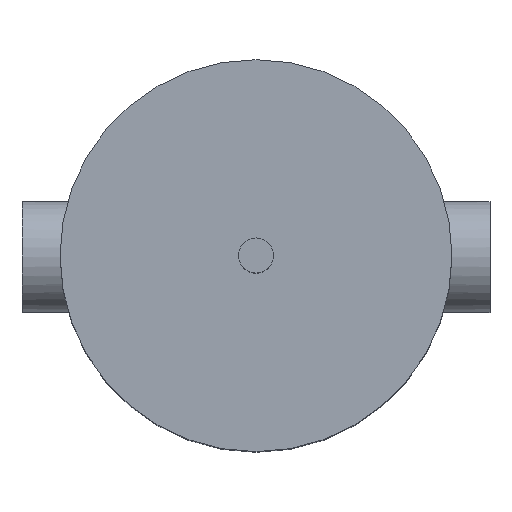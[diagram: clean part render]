
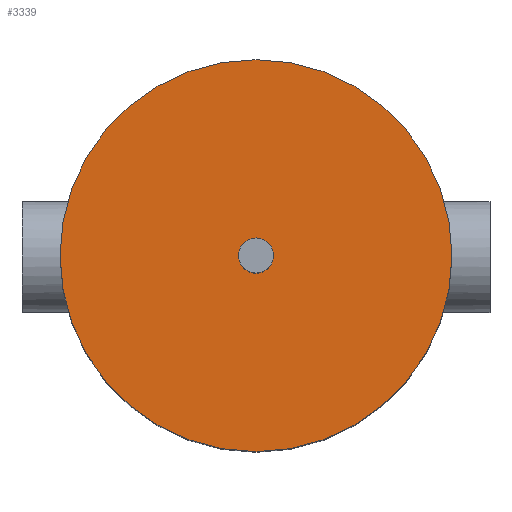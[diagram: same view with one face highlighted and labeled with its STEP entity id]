
A CAD part, top view. The second image highlights one B-rep face of the part: STEP entity #3339.
In plain terms, the highlighted planar face has unit normal (0, 0, 1).
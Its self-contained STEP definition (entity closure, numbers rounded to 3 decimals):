
#3255 = CYLINDRICAL_SURFACE('',#3256,33.5);
#3256 = AXIS2_PLACEMENT_3D('',#3257,#3258,#3259);
#3257 = CARTESIAN_POINT('',(0.,0.,82.5));
#3258 = DIRECTION('',(0.,0.,1.));
#3259 = DIRECTION('',(1.,0.,0.));
#3288 = EDGE_CURVE('',#3289,#3289,#3291,.T.);
#3289 = VERTEX_POINT('',#3290);
#3290 = CARTESIAN_POINT('',(33.5,0.,148.5));
#3291 = SURFACE_CURVE('',#3292,(#3297,#3304),.PCURVE_S1.);
#3292 = CIRCLE('',#3293,33.5);
#3293 = AXIS2_PLACEMENT_3D('',#3294,#3295,#3296);
#3294 = CARTESIAN_POINT('',(0.,0.,148.5));
#3295 = DIRECTION('',(0.,0.,1.));
#3296 = DIRECTION('',(1.,0.,0.));
#3297 = PCURVE('',#3255,#3298);
#3298 = DEFINITIONAL_REPRESENTATION('',(#3299),#3303);
#3299 = LINE('',#3300,#3301);
#3300 = CARTESIAN_POINT('',(0.,66.));
#3301 = VECTOR('',#3302,1.);
#3302 = DIRECTION('',(1.,0.));
#3303 = ( GEOMETRIC_REPRESENTATION_CONTEXT(2) 
PARAMETRIC_REPRESENTATION_CONTEXT() REPRESENTATION_CONTEXT('2D SPACE',''
  ) );
#3304 = PCURVE('',#3305,#3310);
#3305 = PLANE('',#3306);
#3306 = AXIS2_PLACEMENT_3D('',#3307,#3308,#3309);
#3307 = CARTESIAN_POINT('',(0.,0.,148.5));
#3308 = DIRECTION('',(0.,0.,1.));
#3309 = DIRECTION('',(1.,0.,0.));
#3310 = DEFINITIONAL_REPRESENTATION('',(#3311),#3315);
#3311 = CIRCLE('',#3312,33.5);
#3312 = AXIS2_PLACEMENT_2D('',#3313,#3314);
#3313 = CARTESIAN_POINT('',(0.,0.));
#3314 = DIRECTION('',(1.,0.));
#3315 = ( GEOMETRIC_REPRESENTATION_CONTEXT(2) 
PARAMETRIC_REPRESENTATION_CONTEXT() REPRESENTATION_CONTEXT('2D SPACE',''
  ) );
#3339 = ADVANCED_FACE('',(#3340,#3343),#3305,.T.);
#3340 = FACE_BOUND('',#3341,.T.);
#3341 = EDGE_LOOP('',(#3342));
#3342 = ORIENTED_EDGE('',*,*,#3288,.T.);
#3343 = FACE_BOUND('',#3344,.T.);
#3344 = EDGE_LOOP('',(#3345));
#3345 = ORIENTED_EDGE('',*,*,#3346,.F.);
#3346 = EDGE_CURVE('',#3347,#3347,#3349,.T.);
#3347 = VERTEX_POINT('',#3348);
#3348 = CARTESIAN_POINT('',(3.,0.,148.5));
#3349 = SURFACE_CURVE('',#3350,(#3355,#3362),.PCURVE_S1.);
#3350 = CIRCLE('',#3351,3.);
#3351 = AXIS2_PLACEMENT_3D('',#3352,#3353,#3354);
#3352 = CARTESIAN_POINT('',(0.,0.,148.5));
#3353 = DIRECTION('',(0.,0.,1.));
#3354 = DIRECTION('',(1.,0.,-0.));
#3355 = PCURVE('',#3305,#3356);
#3356 = DEFINITIONAL_REPRESENTATION('',(#3357),#3361);
#3357 = CIRCLE('',#3358,3.);
#3358 = AXIS2_PLACEMENT_2D('',#3359,#3360);
#3359 = CARTESIAN_POINT('',(0.,0.));
#3360 = DIRECTION('',(1.,0.));
#3361 = ( GEOMETRIC_REPRESENTATION_CONTEXT(2) 
PARAMETRIC_REPRESENTATION_CONTEXT() REPRESENTATION_CONTEXT('2D SPACE',''
  ) );
#3362 = PCURVE('',#3363,#3368);
#3363 = CYLINDRICAL_SURFACE('',#3364,3.);
#3364 = AXIS2_PLACEMENT_3D('',#3365,#3366,#3367);
#3365 = CARTESIAN_POINT('',(0.,0.,13.5));
#3366 = DIRECTION('',(0.,0.,1.));
#3367 = DIRECTION('',(1.,0.,0.));
#3368 = DEFINITIONAL_REPRESENTATION('',(#3369),#3373);
#3369 = LINE('',#3370,#3371);
#3370 = CARTESIAN_POINT('',(0.,135.));
#3371 = VECTOR('',#3372,1.);
#3372 = DIRECTION('',(1.,0.));
#3373 = ( GEOMETRIC_REPRESENTATION_CONTEXT(2) 
PARAMETRIC_REPRESENTATION_CONTEXT() REPRESENTATION_CONTEXT('2D SPACE',''
  ) );
